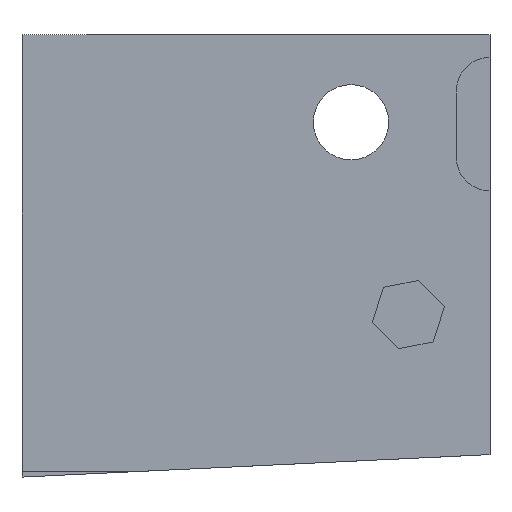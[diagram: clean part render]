
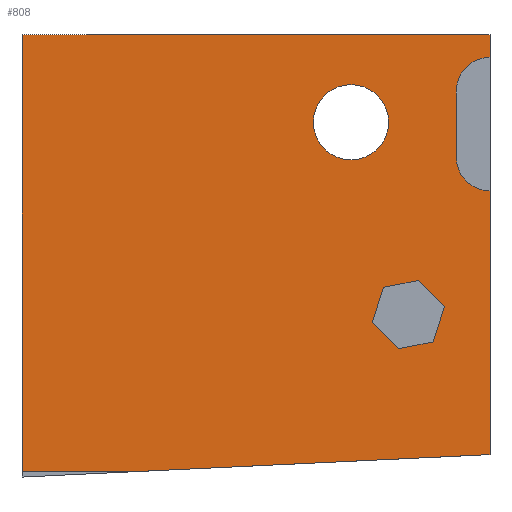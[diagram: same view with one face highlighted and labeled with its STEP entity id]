
A CAD part, left-side view. The second image highlights one B-rep face of the part: STEP entity #808.
In plain terms, the highlighted planar face has unit normal (-1, 0, 0).
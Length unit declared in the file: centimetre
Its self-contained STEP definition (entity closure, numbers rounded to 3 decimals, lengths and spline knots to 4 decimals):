
#17 = DIRECTION ( 'NONE',  ( 0., 0., -1. ) ) ;
#19 = LINE ( 'NONE', #187, #224 ) ;
#20 = CIRCLE ( 'NONE', #674, 80.4152 ) ;
#27 = ORIENTED_EDGE ( 'NONE', *, *, #200, .F. ) ;
#48 = ORIENTED_EDGE ( 'NONE', *, *, #876, .F. ) ;
#53 = LINE ( 'NONE', #285, #265 ) ;
#74 = CARTESIAN_POINT ( 'NONE',  ( 0., 297.1219, 813.3375 ) ) ;
#80 = CARTESIAN_POINT ( 'NONE',  ( 0., 297.1219, 813.3375 ) ) ;
#89 = ORIENTED_EDGE ( 'NONE', *, *, #795, .F. ) ;
#91 = VERTEX_POINT ( 'NONE', #871 ) ;
#96 = EDGE_CURVE ( 'NONE', #740, #567, #239, .T. ) ;
#98 = DIRECTION ( 'NONE',  ( 0., 0.301, -0.954 ) ) ;
#105 = CARTESIAN_POINT ( 'NONE',  ( 0., 121.081, 344.1902 ) ) ;
#111 = CARTESIAN_POINT ( 'NONE',  ( 0., 251.5722, 385.3526 ) ) ;
#112 = EDGE_CURVE ( 'NONE', #508, #301, #1146, .T. ) ;
#119 = VECTOR ( 'NONE', #336, 100. ) ;
#126 = ORIENTED_EDGE ( 'NONE', *, *, #866, .F. ) ;
#145 = CARTESIAN_POINT ( 'NONE',  ( 0., 0., 738.4318 ) ) ;
#149 = ORIENTED_EDGE ( 'NONE', *, *, #957, .F. ) ;
#151 = ORIENTED_EDGE ( 'NONE', *, *, #1147, .F. ) ;
#153 = DIRECTION ( 'NONE',  ( 0., 1., 0. ) ) ;
#154 = VERTEX_POINT ( 'NONE', #602 ) ;
#164 = CARTESIAN_POINT ( 'NONE',  ( 0., 153.1228, 475.3363 ) ) ;
#165 = DIRECTION ( 'NONE',  ( 1., 0., 0. ) ) ;
#178 = EDGE_CURVE ( 'NONE', #91, #751, #202, .T. ) ;
#187 = CARTESIAN_POINT ( 'NONE',  ( 0., 97.3158, 419.5294 ) ) ;
#188 = DIRECTION ( 'NONE',  ( 0., -0.707, -0.707 ) ) ;
#196 = CARTESIAN_POINT ( 'NONE',  ( 0., 153.1228, 475.3363 ) ) ;
#200 = EDGE_CURVE ( 'NONE', #563, #1104, #289, .T. ) ;
#202 = LINE ( 'NONE', #453, #647 ) ;
#220 = EDGE_CURVE ( 'NONE', #913, #591, #1009, .T. ) ;
#221 = DIRECTION ( 'NONE',  ( 0., -1., 0. ) ) ;
#224 = VECTOR ( 'NONE', #738, 100. ) ;
#227 = VERTEX_POINT ( 'NONE', #549 ) ;
#232 = CARTESIAN_POINT ( 'NONE',  ( 0., 251.5722, 385.3526 ) ) ;
#239 = LINE ( 'NONE', #783, #454 ) ;
#245 = AXIS2_PLACEMENT_3D ( 'NONE', #145, #1132, #984 ) ;
#259 = DIRECTION ( 'NONE',  ( 0., 0., -1. ) ) ;
#265 = VECTOR ( 'NONE', #1108, 100. ) ;
#268 = CARTESIAN_POINT ( 'NONE',  ( 0., 71.8863, 738.4318 ) ) ;
#270 = CARTESIAN_POINT ( 'NONE',  ( 0., 227.8071, 460.6918 ) ) ;
#276 = VECTOR ( 'NONE', #660, 100. ) ;
#285 = CARTESIAN_POINT ( 'NONE',  ( 0., 195.7653, 329.5457 ) ) ;
#289 = LINE ( 'NONE', #196, #960 ) ;
#301 = VERTEX_POINT ( 'NONE', #399 ) ;
#312 = CARTESIAN_POINT ( 'NONE',  ( 0., 1000., 1000. ) ) ;
#336 = DIRECTION ( 'NONE',  ( 0., 0., -1. ) ) ;
#339 = LINE ( 'NONE', #1075, #651 ) ;
#348 = VERTEX_POINT ( 'NONE', #1139 ) ;
#359 = LINE ( 'NONE', #1084, #555 ) ;
#365 = CARTESIAN_POINT ( 'NONE',  ( 0., 0., 952.1129 ) ) ;
#366 = CARTESIAN_POINT ( 'NONE',  ( 0., 227.8071, 460.6918 ) ) ;
#377 = PLANE ( 'NONE',  #941 ) ;
#391 = EDGE_CURVE ( 'NONE', #348, #872, #861, .T. ) ;
#395 = EDGE_LOOP ( 'NONE', ( #48, #27, #915, #151, #89, #912 ) ) ;
#397 = LINE ( 'NONE', #105, #276 ) ;
#399 = CARTESIAN_POINT ( 'NONE',  ( 0., 1000., 68.0467 ) ) ;
#453 = CARTESIAN_POINT ( 'NONE',  ( 0., 0., 1000. ) ) ;
#454 = VECTOR ( 'NONE', #603, 100. ) ;
#461 = EDGE_CURVE ( 'NONE', #1031, #91, #769, .T. ) ;
#469 = ORIENTED_EDGE ( 'NONE', *, *, #677, .F. ) ;
#479 = ORIENTED_EDGE ( 'NONE', *, *, #870, .F. ) ;
#481 = FACE_BOUND ( 'NONE', #395, .T. ) ;
#486 = ORIENTED_EDGE ( 'NONE', *, *, #1150, .F. ) ;
#508 = VERTEX_POINT ( 'NONE', #685 ) ;
#546 = EDGE_LOOP ( 'NONE', ( #889, #149, #479, #670, #1067, #469, #486, #886, #126 ) ) ;
#549 = CARTESIAN_POINT ( 'NONE',  ( 0., 97.3158, 419.5294 ) ) ;
#550 = VECTOR ( 'NONE', #188, 100. ) ;
#555 = VECTOR ( 'NONE', #17, 100. ) ;
#561 = DIRECTION ( 'NONE',  ( -1., 0., 0. ) ) ;
#563 = VERTEX_POINT ( 'NONE', #164 ) ;
#567 = VERTEX_POINT ( 'NONE', #365 ) ;
#591 = VERTEX_POINT ( 'NONE', #1005 ) ;
#602 = CARTESIAN_POINT ( 'NONE',  ( 0., 71.8863, 880.2266 ) ) ;
#603 = DIRECTION ( 'NONE',  ( 0., 0., -1. ) ) ;
#607 = CIRCLE ( 'NONE', #810, 71.8863 ) ;
#647 = VECTOR ( 'NONE', #1099, 100. ) ;
#651 = VECTOR ( 'NONE', #153, 100. ) ;
#652 = DIRECTION ( 'NONE',  ( 0., 0., -1. ) ) ;
#656 = LINE ( 'NONE', #832, #888 ) ;
#658 = CARTESIAN_POINT ( 'NONE',  ( 0., 1000., 1000. ) ) ;
#660 = DIRECTION ( 'NONE',  ( 0., -0.301, 0.954 ) ) ;
#670 = ORIENTED_EDGE ( 'NONE', *, *, #178, .F. ) ;
#673 = CARTESIAN_POINT ( 'NONE',  ( 0., 0., 103.2812 ) ) ;
#674 = AXIS2_PLACEMENT_3D ( 'NONE', #74, #987, #709 ) ;
#677 = EDGE_CURVE ( 'NONE', #154, #1031, #359, .T. ) ;
#685 = CARTESIAN_POINT ( 'NONE',  ( 0., 1000., 1000. ) ) ;
#709 = DIRECTION ( 'NONE',  ( 0., 0., -1. ) ) ;
#724 = DIRECTION ( 'NONE',  ( 0., 0.981, -0.192 ) ) ;
#738 = DIRECTION ( 'NONE',  ( 0., 0.707, 0.707 ) ) ;
#740 = VERTEX_POINT ( 'NONE', #855 ) ;
#751 = VERTEX_POINT ( 'NONE', #673 ) ;
#760 = VERTEX_POINT ( 'NONE', #1019 ) ;
#762 = FACE_OUTER_BOUND ( 'NONE', #546, .T. ) ;
#763 = CARTESIAN_POINT ( 'NONE',  ( 0., 121.081, 344.1902 ) ) ;
#769 = CIRCLE ( 'NONE', #245, 71.8863 ) ;
#783 = CARTESIAN_POINT ( 'NONE',  ( 0., 0., 1000. ) ) ;
#795 = EDGE_CURVE ( 'NONE', #591, #1133, #53, .T. ) ;
#801 = VECTOR ( 'NONE', #98, 100. ) ;
#808 = ADVANCED_FACE ( 'NONE', ( #1113, #481, #762 ), #377, .F. ) ;
#810 = AXIS2_PLACEMENT_3D ( 'NONE', #858, #561, #850 ) ;
#832 = CARTESIAN_POINT ( 'NONE',  ( 0., 1000., 55.2866 ) ) ;
#837 = DIRECTION ( 'NONE',  ( 1., 0., 0. ) ) ;
#841 = AXIS2_PLACEMENT_3D ( 'NONE', #80, #165, #259 ) ;
#845 = EDGE_LOOP ( 'NONE', ( #1039, #906 ) ) ;
#850 = DIRECTION ( 'NONE',  ( 0., 0., 1. ) ) ;
#855 = CARTESIAN_POINT ( 'NONE',  ( 0., 0., 1000. ) ) ;
#858 = CARTESIAN_POINT ( 'NONE',  ( 0., 0., 880.2266 ) ) ;
#861 = CIRCLE ( 'NONE', #841, 80.4152 ) ;
#864 = VECTOR ( 'NONE', #221, 100. ) ;
#866 = EDGE_CURVE ( 'NONE', #508, #740, #1125, .T. ) ;
#870 = EDGE_CURVE ( 'NONE', #751, #760, #656, .T. ) ;
#871 = CARTESIAN_POINT ( 'NONE',  ( 0., 0., 666.5455 ) ) ;
#872 = VERTEX_POINT ( 'NONE', #1021 ) ;
#876 = EDGE_CURVE ( 'NONE', #1104, #913, #921, .T. ) ;
#886 = ORIENTED_EDGE ( 'NONE', *, *, #96, .F. ) ;
#888 = VECTOR ( 'NONE', #1093, 100. ) ;
#889 = ORIENTED_EDGE ( 'NONE', *, *, #112, .T. ) ;
#906 = ORIENTED_EDGE ( 'NONE', *, *, #391, .T. ) ;
#912 = ORIENTED_EDGE ( 'NONE', *, *, #220, .F. ) ;
#913 = VERTEX_POINT ( 'NONE', #232 ) ;
#915 = ORIENTED_EDGE ( 'NONE', *, *, #1094, .F. ) ;
#921 = LINE ( 'NONE', #270, #801 ) ;
#927 = EDGE_CURVE ( 'NONE', #872, #348, #20, .T. ) ;
#941 = AXIS2_PLACEMENT_3D ( 'NONE', #658, #837, #652 ) ;
#957 = EDGE_CURVE ( 'NONE', #760, #301, #339, .T. ) ;
#960 = VECTOR ( 'NONE', #724, 100. ) ;
#984 = DIRECTION ( 'NONE',  ( 0., 0., 1. ) ) ;
#987 = DIRECTION ( 'NONE',  ( 1., 0., 0. ) ) ;
#1005 = CARTESIAN_POINT ( 'NONE',  ( 0., 195.7653, 329.5457 ) ) ;
#1009 = LINE ( 'NONE', #111, #550 ) ;
#1019 = CARTESIAN_POINT ( 'NONE',  ( 0., 734.1352, 68.0467 ) ) ;
#1021 = CARTESIAN_POINT ( 'NONE',  ( 0., 297.1219, 732.9223 ) ) ;
#1031 = VERTEX_POINT ( 'NONE', #268 ) ;
#1039 = ORIENTED_EDGE ( 'NONE', *, *, #927, .T. ) ;
#1043 = CARTESIAN_POINT ( 'NONE',  ( 0., 1000., 1000. ) ) ;
#1067 = ORIENTED_EDGE ( 'NONE', *, *, #461, .F. ) ;
#1075 = CARTESIAN_POINT ( 'NONE',  ( 0., 0., 68.0467 ) ) ;
#1084 = CARTESIAN_POINT ( 'NONE',  ( 0., 71.8863, 880.2266 ) ) ;
#1093 = DIRECTION ( 'NONE',  ( 0., 0.999, -0.048 ) ) ;
#1094 = EDGE_CURVE ( 'NONE', #227, #563, #19, .T. ) ;
#1099 = DIRECTION ( 'NONE',  ( 0., 0., -1. ) ) ;
#1104 = VERTEX_POINT ( 'NONE', #366 ) ;
#1108 = DIRECTION ( 'NONE',  ( 0., -0.981, 0.192 ) ) ;
#1113 = FACE_BOUND ( 'NONE', #845, .T. ) ;
#1125 = LINE ( 'NONE', #1043, #864 ) ;
#1132 = DIRECTION ( 'NONE',  ( -1., 0., 0. ) ) ;
#1133 = VERTEX_POINT ( 'NONE', #763 ) ;
#1139 = CARTESIAN_POINT ( 'NONE',  ( 0., 297.1219, 893.7527 ) ) ;
#1146 = LINE ( 'NONE', #312, #119 ) ;
#1147 = EDGE_CURVE ( 'NONE', #1133, #227, #397, .T. ) ;
#1150 = EDGE_CURVE ( 'NONE', #567, #154, #607, .T. ) ;
